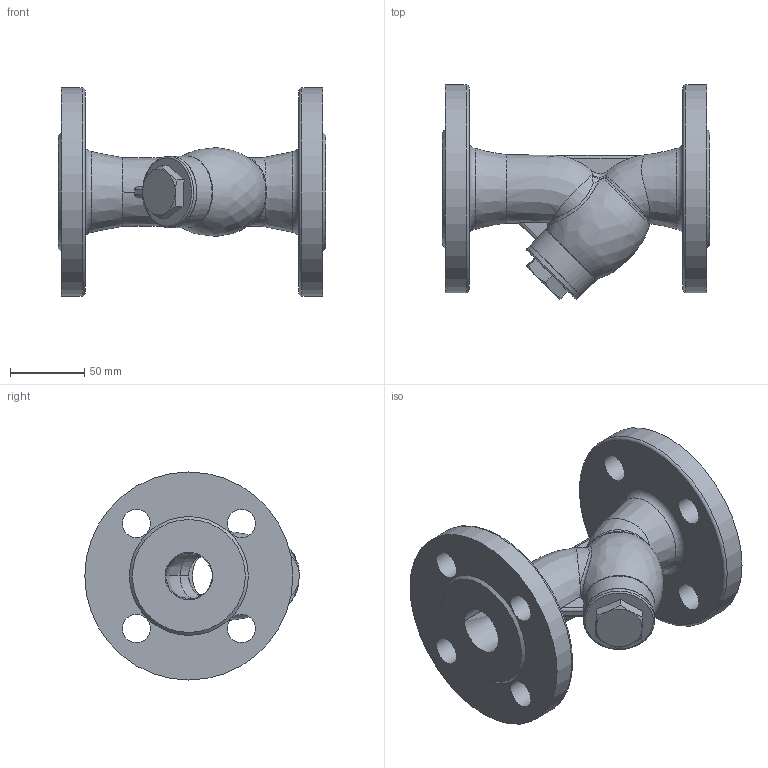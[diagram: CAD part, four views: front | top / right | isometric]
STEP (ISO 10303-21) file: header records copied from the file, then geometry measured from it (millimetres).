
FILE_DESCRIPTION(/* description */ ('STEP AP203'),/* implementation_level */ '2;1');
FILE_NAME(/* name */ '',/* time_stamp */ '2024-11-28T18:31:30+07:00',/* author */ ('Eva'),/* organization */ (''),/* preprocessor_version */ 'ST-DEVELOPER v20',/* originating_system */ 'Autodesk Inventor 2025',/* authorisation */ '');
FILE_SCHEMA (('AUTOMOTIVE_DESIGN { 1 0 10303 214 3 1 1 }'));
Length unit declared in the file: metre
Products named in the file (4): 德标过滤器32装配体1; 德标过滤器32装配体1(2); 32阀体; 32阀盖
Assembly tree (3 placements, depth 3):
  德标过滤器32装配体1
    德标过滤器32装配体1(2)
      32阀体
      32阀盖
Bounding box: 180 x 144.24 x 140 mm (x, y, z)
Volume: 652654.7 mm3; surface area: 131719.4 mm2
Topology: 2 solids, 2 shells, 98 faces, 243 edges, 161 vertices
Faces by surface type: plane 30, bspline 27, cylinder 23, cone 11, torus 7
Full cylindrical faces by diameter (mm): 19 x8, 26 x1, 29.5 x1, 32 x1, 36 x2, 37 x1, 44 x1, 48 x2, 140 x2
Entity records: 19989 total; most frequent: CARTESIAN_POINT 17729, ORIENTED_EDGE 486, DIRECTION 365, EDGE_CURVE 243, VERTEX_POINT 161, AXIS2_PLACEMENT_3D 156, EDGE_LOOP 130, B_SPLINE_CURVE_WITH_KNOTS 99
